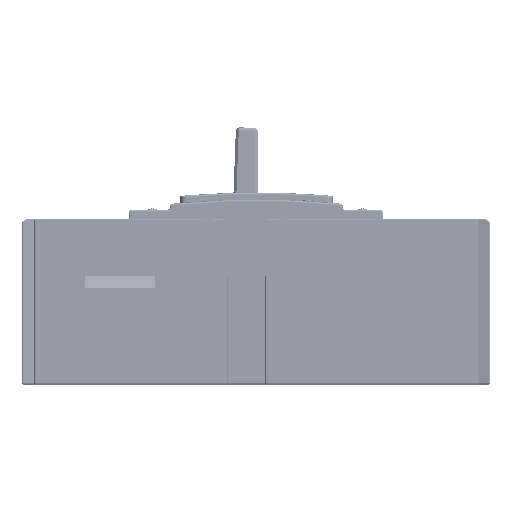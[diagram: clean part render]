
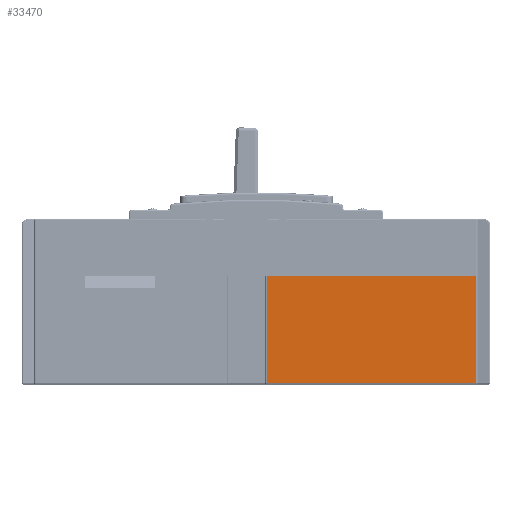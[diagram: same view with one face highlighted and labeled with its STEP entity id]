
A CAD part, front view. The second image highlights one B-rep face of the part: STEP entity #33470.
In plain terms, the highlighted planar face has unit normal (0, -1, 0).
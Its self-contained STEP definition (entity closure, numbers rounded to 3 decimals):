
#5153=FACE_OUTER_BOUND('',#46107,.T.);
#13696=LINE('',#179003,#24351);
#13911=LINE('',#179736,#24566);
#13914=LINE('',#179746,#24569);
#14127=LINE('',#180388,#24782);
#24351=VECTOR('',#134554,1.);
#24566=VECTOR('',#135163,1.);
#24569=VECTOR('',#135172,1.);
#24782=VECTOR('',#135723,1.);
#33470=ADVANCED_FACE('',(#5153),#38638,.F.);
#38638=PLANE('',#114807);
#46107=EDGE_LOOP('',(#66981,#66982,#66983,#66984));
#66981=ORIENTED_EDGE('',*,*,#100017,.T.);
#66982=ORIENTED_EDGE('',*,*,#100289,.T.);
#66983=ORIENTED_EDGE('',*,*,#100012,.F.);
#66984=ORIENTED_EDGE('',*,*,#99664,.F.);
#86609=VERTEX_POINT('',#179002);
#86610=VERTEX_POINT('',#179004);
#86912=VERTEX_POINT('',#179737);
#86915=VERTEX_POINT('',#179745);
#99664=EDGE_CURVE('',#86609,#86610,#13696,.T.);
#100012=EDGE_CURVE('',#86610,#86912,#13911,.T.);
#100017=EDGE_CURVE('',#86609,#86915,#13914,.T.);
#100289=EDGE_CURVE('',#86915,#86912,#14127,.T.);
#114807=AXIS2_PLACEMENT_3D('',#180389,#135724,#135725);
#134554=DIRECTION('',(1.,0.,0.));
#135163=DIRECTION('',(0.,0.,-1.));
#135172=DIRECTION('',(0.,0.,-1.));
#135723=DIRECTION('',(1.,0.,0.));
#135724=DIRECTION('',(0.,1.,0.));
#135725=DIRECTION('',(0.,0.,1.));
#179002=CARTESIAN_POINT('',(-11.262,-337.3,72.9));
#179003=CARTESIAN_POINT('',(119.788,-337.3,72.9));
#179004=CARTESIAN_POINT('',(112.288,-337.3,72.9));
#179736=CARTESIAN_POINT('',(112.288,-337.3,72.9));
#179737=CARTESIAN_POINT('',(112.288,-337.3,9.9));
#179745=CARTESIAN_POINT('',(-11.262,-337.3,9.9));
#179746=CARTESIAN_POINT('',(-11.262,-337.3,73.2));
#180388=CARTESIAN_POINT('',(119.788,-337.3,9.9));
#180389=CARTESIAN_POINT('',(119.788,-337.3,72.9));
